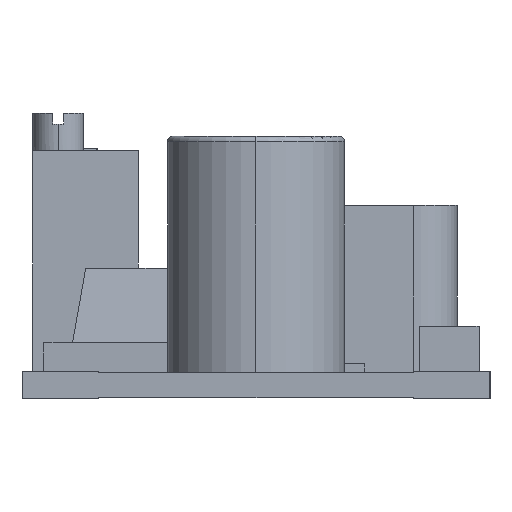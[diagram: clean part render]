
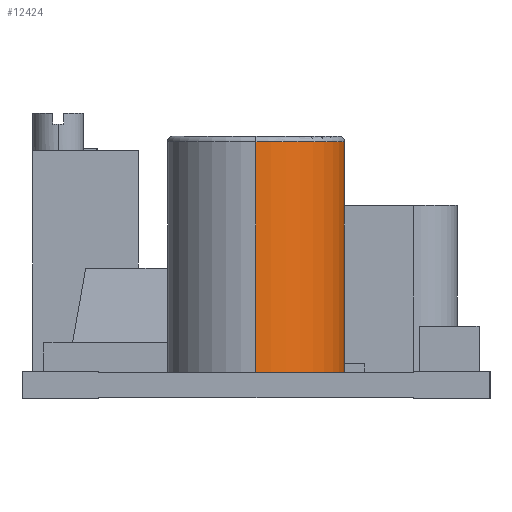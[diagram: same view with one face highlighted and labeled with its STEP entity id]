
A CAD part, left-side view. The second image highlights one B-rep face of the part: STEP entity #12424.
In plain terms, the highlighted cylindrical face has radius 4.025 mm (diameter 8.05 mm), a partial arc.
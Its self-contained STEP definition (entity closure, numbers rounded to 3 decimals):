
#697 = DIRECTION ( 'NONE',  ( 0., 0., 1. ) ) ;
#5271 = DIRECTION ( 'NONE',  ( 0., 0., -1. ) ) ;
#8163 = CARTESIAN_POINT ( 'NONE',  ( -17., 0., 1.15 ) ) ;
#9994 = CARTESIAN_POINT ( 'NONE',  ( -12.975, 0., 1.15 ) ) ;
#10033 = FACE_OUTER_BOUND ( 'NONE', #39711, .T. ) ;
#10140 = AXIS2_PLACEMENT_3D ( 'NONE', #27412, #31331, #47075 ) ;
#10927 = VERTEX_POINT ( 'NONE', #31216 ) ;
#12424 = ADVANCED_FACE ( 'NONE', ( #10033 ), #38144, .T. ) ;
#14087 = EDGE_CURVE ( 'NONE', #50509, #10927, #41781, .T. ) ;
#16176 = VERTEX_POINT ( 'NONE', #36002 ) ;
#17018 = EDGE_CURVE ( 'NONE', #27004, #16176, #18399, .T. ) ;
#17491 = VECTOR ( 'NONE', #5271, 1000. ) ;
#18195 = CIRCLE ( 'NONE', #41681, 4.025 ) ;
#18399 = LINE ( 'NONE', #9994, #31026 ) ;
#19002 = ORIENTED_EDGE ( 'NONE', *, *, #17018, .F. ) ;
#20161 = DIRECTION ( 'NONE',  ( -1., 0., 0. ) ) ;
#24217 = DIRECTION ( 'NONE',  ( 1., 0., 0. ) ) ;
#26046 = DIRECTION ( 'NONE',  ( 0., 0., -1. ) ) ;
#27004 = VERTEX_POINT ( 'NONE', #47648 ) ;
#27336 = EDGE_CURVE ( 'NONE', #16176, #10927, #27367, .T. ) ;
#27367 = CIRCLE ( 'NONE', #34015, 4.025 ) ;
#27412 = CARTESIAN_POINT ( 'NONE',  ( -17., 0., 1.15 ) ) ;
#28201 = CARTESIAN_POINT ( 'NONE',  ( -21.025, 0., 11.65 ) ) ;
#31026 = VECTOR ( 'NONE', #26046, 1000. ) ;
#31216 = CARTESIAN_POINT ( 'NONE',  ( -21.025, 0., 1.15 ) ) ;
#31331 = DIRECTION ( 'NONE',  ( 0., 0., -1. ) ) ;
#34015 = AXIS2_PLACEMENT_3D ( 'NONE', #8163, #43915, #24217 ) ;
#34255 = ORIENTED_EDGE ( 'NONE', *, *, #14087, .T. ) ;
#35550 = ORIENTED_EDGE ( 'NONE', *, *, #27336, .F. ) ;
#36002 = CARTESIAN_POINT ( 'NONE',  ( -12.975, 0., 1.15 ) ) ;
#38144 = CYLINDRICAL_SURFACE ( 'NONE', #10140, 4.025 ) ;
#39711 = EDGE_LOOP ( 'NONE', ( #45889, #34255, #35550, #19002 ) ) ;
#41524 = CARTESIAN_POINT ( 'NONE',  ( -21.025, 0., 1.15 ) ) ;
#41681 = AXIS2_PLACEMENT_3D ( 'NONE', #45086, #697, #20161 ) ;
#41781 = LINE ( 'NONE', #41524, #17491 ) ;
#43915 = DIRECTION ( 'NONE',  ( 0., 0., -1. ) ) ;
#44784 = EDGE_CURVE ( 'NONE', #50509, #27004, #18195, .T. ) ;
#45086 = CARTESIAN_POINT ( 'NONE',  ( -17., 0., 11.65 ) ) ;
#45889 = ORIENTED_EDGE ( 'NONE', *, *, #44784, .F. ) ;
#47075 = DIRECTION ( 'NONE',  ( 1., 0., 0. ) ) ;
#47648 = CARTESIAN_POINT ( 'NONE',  ( -12.975, 0., 11.65 ) ) ;
#50509 = VERTEX_POINT ( 'NONE', #28201 ) ;
